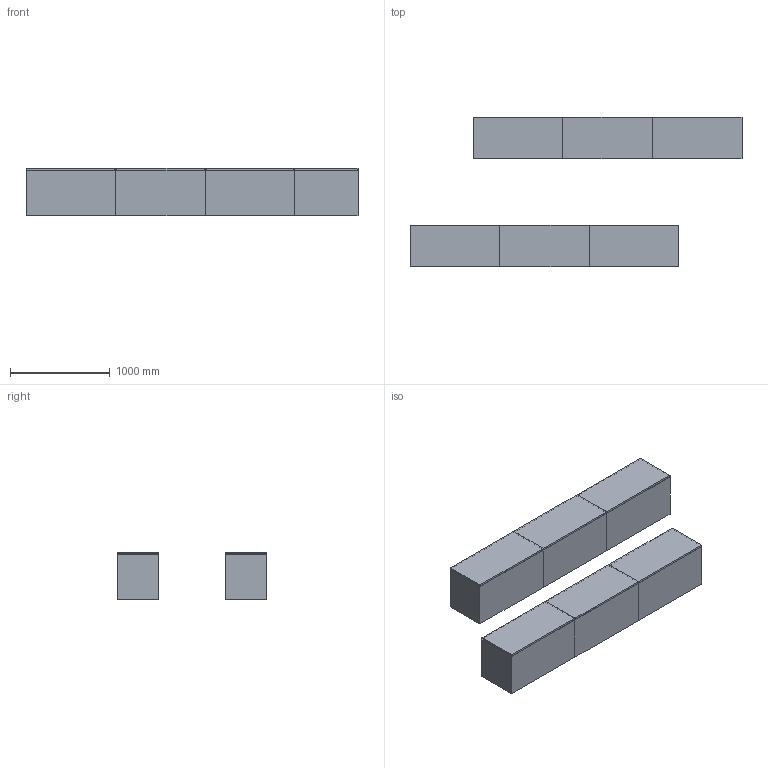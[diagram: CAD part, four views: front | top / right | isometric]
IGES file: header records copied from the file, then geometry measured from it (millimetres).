
Start section: SolidWorks IGES file using NURBS representation for surfaces
Global section: file name: G:\VICCARBE\PRODUCTOS\20-DO IT\04-MODELADOS (PLANOS)\SOLIDWORKS\Composiciones\IGES\VICCARBE_Do_It_Comp06.IGS; native system: SolidWorks 2009; preprocessor: SolidWorks 2009; author: RUBEN; date: 111102.121600; units: millimetre
Bounding box: 3333.39 x 1503.69 x 479 mm (x, y, z)
Surface area: 23202960 mm2 (no closed solid volume)
Topology: 0 solids, 0 shells, 126 faces, 576 edges, 576 vertices
Faces by surface type: bspline 126
